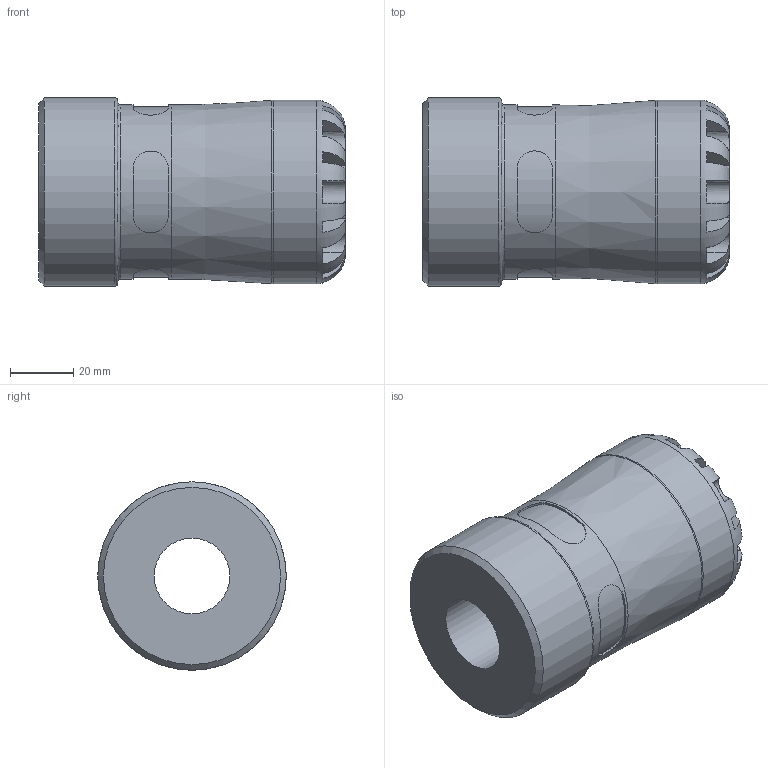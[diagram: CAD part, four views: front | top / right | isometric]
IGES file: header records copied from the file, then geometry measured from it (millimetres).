
Global section: file name: 100200032020_190200032020.ipt; native system: Autodesk Inventor 2015; preprocessor: unknown; author: KIM; date: 20170727.143947; units: millimetre
Bounding box: 97 x 59.61 x 59.61 mm (x, y, z)
Volume: 179671.9 mm3; surface area: 31660.9 mm2
Topology: 1 solids, 1 shells, 100 faces, 259 edges, 166 vertices
Faces by surface type: plane 60, revolution 24, cylinder 15, cone 1
Full cylindrical faces by diameter (mm): 55.1 x1, 58 x1, 59.614 x1
